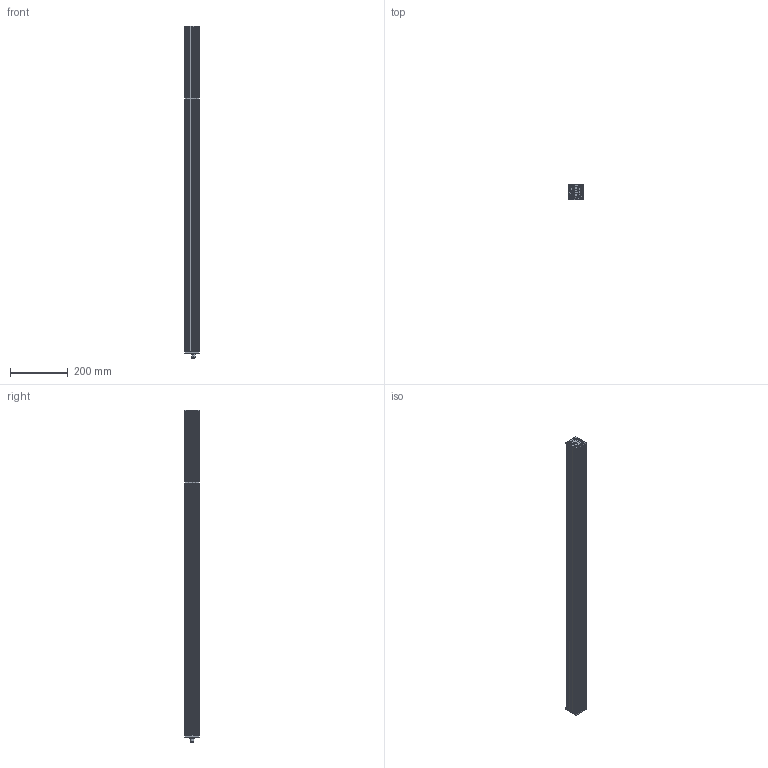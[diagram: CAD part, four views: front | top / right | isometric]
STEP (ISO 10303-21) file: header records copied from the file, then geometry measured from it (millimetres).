
FILE_DESCRIPTION (( 'STEP AP214' ), '1' );
FILE_NAME ('008827A.STEP', '2018-10-16T07:45:26', ( '' ), ( '' ), 'SwSTEP 2.0', 'SolidWorks 2018', '' );
FILE_SCHEMA (( 'AUTOMOTIVE_DESIGN' ));
Length unit declared in the file: millimetre
Products named in the file (8): 000605; 008769; 001161A1123; 008827A; 000959; 000096; 001596A1123; 000958
Assembly tree (15 placements, depth 2):
  008827A
    000958
    000096
    000959
    001596A1123
    000605  x6
    008769  x4
    001161A1123
Bounding box: 49 x 51 x 1152.2 mm (x, y, z)
Volume: 1188498.7 mm3; surface area: 939302.2 mm2
Topology: 17 solids, 17 shells, 3036 faces, 8235 edges, 5430 vertices
Faces by surface type: plane 1685, bspline 598, cylinder 549, cone 202, torus 2
Entity records: 132365 total; most frequent: CARTESIAN_POINT 61488, ORIENTED_EDGE 15488, DIRECTION 12237, EDGE_CURVE 7744, LINE 5203, VECTOR 5203, VERTEX_POINT 5141, AXIS2_PLACEMENT_3D 3517
